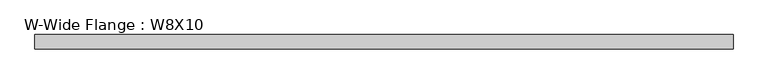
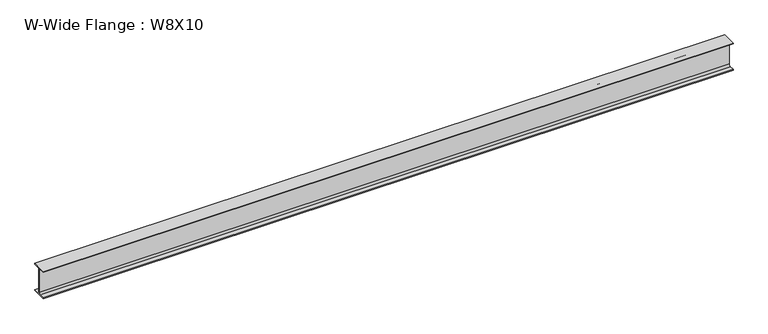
"""IFC4 building model written with IfcOpenShell, lengths in millimetres: beam geometry, W-Wide Flange : W8X10."""

from ifc_helpers import new_model, si_unit, point, frame, frame_2d, origin, place, context, project, spatial, polyline, circle_curve, trimmed, segment, composite_curve, outline, extrude, source, transform, mapped, element, save


def w_wide_flange_w8x10_84c81e36(model_context):
    return source(origin(), model_context, "Body", "SweptSolid", [
        extrude(outline(composite_curve([segment(polyline([(50.038, -94.996), (50.038, -100.203), (-50.038, -100.203), (-50.038, -94.996), (-14.4145, -94.996)]), True, "CONTINUOUS"), segment(trimmed(circle_curve(frame_2d((-14.4145, -82.7405)), 12.2555), [point((-14.4145, -94.996))], [point((-2.159, -82.7405))], True, "CARTESIAN"), True, "CONTINUOUS"), segment(polyline([(-2.159, -82.7405), (-2.159, 82.7405)]), True, "CONTINUOUS"), segment(trimmed(circle_curve(frame_2d((-14.4145, 82.7405)), 12.2555), [point((-2.159, 82.7405))], [point((-14.4145, 94.996))], True, "CARTESIAN"), True, "CONTINUOUS"), segment(polyline([(-14.4145, 94.996), (-50.038, 94.996), (-50.038, 100.203), (50.038, 100.203), (50.038, 94.996), (14.4145, 94.996)]), True, "CONTINUOUS"), segment(trimmed(circle_curve(frame_2d((14.4145, 82.7405)), 12.2555), [point((14.4145, 94.996))], [point((2.159, 82.7405))], True, "CARTESIAN"), True, "CONTINUOUS"), segment(polyline([(2.159, 82.7405), (2.159, -82.7405)]), True, "CONTINUOUS"), segment(trimmed(circle_curve(frame_2d((14.4145, -82.7405)), 12.2555), [point((2.159, -82.7405))], [point((14.4145, -94.996))], True, "CARTESIAN"), True, "CONTINUOUS"), segment(polyline([(14.4145, -94.996), (50.038, -94.996)]), True, "CONTINUOUS")], self_intersect=False)), frame((-2413.8255, 0.0, 0.0), z_axis=(1.0, 0.0, 0.0), x_axis=(0.0, 1.0, 0.0)), (0.0, 0.0, 1.0), 4837.938),
    ])


if __name__ == "__main__":
    model = new_model("IFC4")
    model_context = context("Model", 3, world=origin())
    ifc_project = project(units=[si_unit("LENGTHUNIT", "METRE", prefix="MILLI")], contexts=[model_context])
    site = spatial("IfcSite", under=ifc_project)
    building = spatial("IfcBuilding", under=site)
    placement = place(None, origin())
    w_wide_flange_w8x10_shape = w_wide_flange_w8x10_84c81e36(model_context)
    element("IfcBeam", 1, ObjectType="W-Wide Flange : W8X10", at=placement, inside=building, context=model_context, shape_type="MappedRepresentation", body=[
        mapped(w_wide_flange_w8x10_shape, transform((0.0, 0.0, 0.0), x_axis=(1.0, 0.0, 0.0), y_axis=(0.0, 1.0, 0.0), z_axis=(0.0, 0.0, 1.0))),
    ])
    save(model, "model.ifc")
